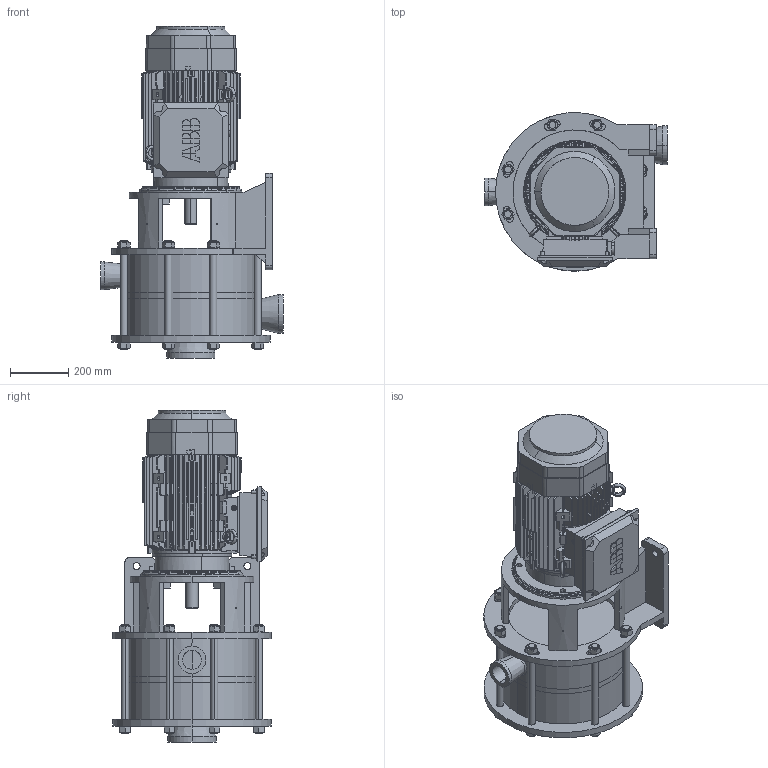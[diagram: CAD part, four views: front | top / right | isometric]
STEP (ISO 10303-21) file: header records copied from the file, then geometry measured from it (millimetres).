
FILE_DESCRIPTION((''),'2;1');
FILE_NAME('MJ100 Plastic--160L frame.stp','2010-08-04T14:29:44',(''),(''),'AutoCAD STEP 2000i','AutoCAD 2000i',', , ');
FILE_SCHEMA(('CONFIG_CONTROL_DESIGN'));
Length unit declared in the file: millimetre
Products named in the file (4): MJ100 PLASTIC--160L FRAME A; Motor; M3BP160MLB4 (long); Any
Assembly tree (2 placements, depth 2):
  MJ100 PLASTIC--160L FRAME A
    Motor
    M3BP160MLB4 (long)
  Any
Bounding box: 626 x 544 x 1139 mm (x, y, z)
Volume: 102771561.9 mm3; surface area: 5090959.1 mm2
Topology: 18 solids, 130 shells, 2370 faces, 6345 edges, 4088 vertices
Faces by surface type: plane 947, bspline 460, torus 448, cylinder 435, cone 80
Entity records: 80874 total; most frequent: CARTESIAN_POINT 25844, ORIENTED_EDGE 12602, DIRECTION 10306, EDGE_CURVE 6301, VERTEX_POINT 4088, AXIS2_PLACEMENT_3D 4005, EDGE_LOOP 2563, FACE_OUTER_BOUND 2370
